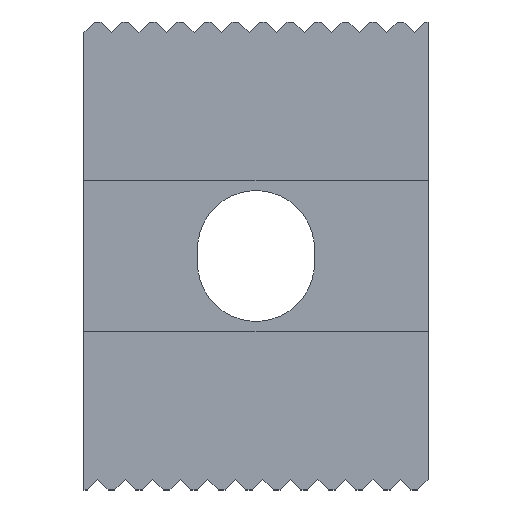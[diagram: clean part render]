
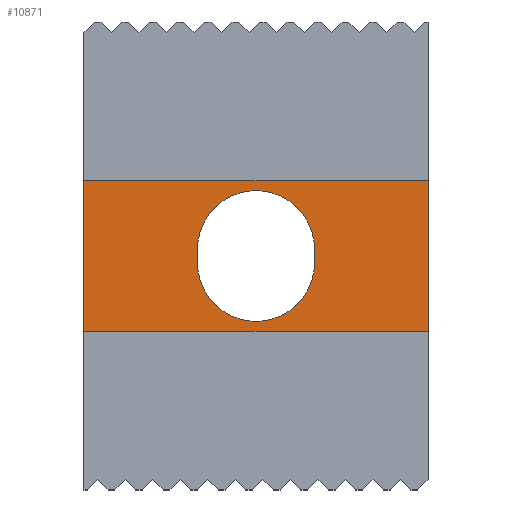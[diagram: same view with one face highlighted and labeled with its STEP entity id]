
A CAD part, front view. The second image highlights one B-rep face of the part: STEP entity #10871.
In plain terms, the highlighted planar face has unit normal (0, -1, 0).
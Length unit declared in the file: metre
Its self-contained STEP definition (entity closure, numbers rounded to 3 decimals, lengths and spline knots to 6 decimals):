
#1=DIRECTION('',(-1.,0.,0.));
#2=VECTOR('',#1,0.025);
#3=CARTESIAN_POINT('',(0.0125,0.004,-0.010068));
#4=LINE('',#3,#2);
#5=CARTESIAN_POINT('',(0.,0.004,-0.0165));
#6=DIRECTION('',(0.,1.,0.));
#7=DIRECTION('',(-0.993,0.,0.118));
#8=AXIS2_PLACEMENT_3D('',#5,#6,#7);
#10=CARTESIAN_POINT('',(0.,0.004,-0.0175));
#11=DIRECTION('',(0.,1.,0.));
#12=DIRECTION('',(0.993,0.,-0.118));
#13=AXIS2_PLACEMENT_3D('',#10,#11,#12);
#15=DIRECTION('',(-1.,0.,0.));
#16=VECTOR('',#15,0.025);
#17=CARTESIAN_POINT('',(0.0125,0.004,-0.023932));
#18=LINE('',#17,#16);
#31=DIRECTION('',(0.,0.,1.));
#32=VECTOR('',#31,0.002);
#33=CARTESIAN_POINT('',(0.00422,0.004,
-0.018));
#34=LINE('',#33,#32);
#47=DIRECTION('',(0.,0.,-1.));
#48=VECTOR('',#47,0.002);
#49=CARTESIAN_POINT('',(-0.00422,0.004,
-0.016));
#50=LINE('',#49,#48);
#243=DIRECTION('',(0.,0.,1.));
#244=VECTOR('',#243,0.013864);
#245=CARTESIAN_POINT('',(-0.0125,0.004,-0.023932));
#246=LINE('',#245,#244);
#331=DIRECTION('',(0.,0.,-1.));
#332=VECTOR('',#331,0.013864);
#333=CARTESIAN_POINT('',(0.0125,0.004,-0.010068));
#334=LINE('',#333,#332);
#9681=CARTESIAN_POINT('',(-0.00422,0.004,
-0.016));
#9682=CARTESIAN_POINT('',(-0.00422,0.004,
-0.018));
#9683=VERTEX_POINT('',#9681);
#9684=VERTEX_POINT('',#9682);
#9685=CARTESIAN_POINT('',(0.00422,0.004,
-0.018));
#9686=VERTEX_POINT('',#9685);
#9687=CARTESIAN_POINT('',(0.00422,0.004,
-0.016));
#9688=VERTEX_POINT('',#9687);
#10823=CARTESIAN_POINT('',(0.0125,0.004,-0.010068));
#10824=CARTESIAN_POINT('',(-0.0125,0.004,-0.010068));
#10825=VERTEX_POINT('',#10823);
#10826=VERTEX_POINT('',#10824);
#10827=CARTESIAN_POINT('',(0.0125,0.004,-0.023932));
#10828=CARTESIAN_POINT('',(-0.0125,0.004,-0.023932));
#10829=VERTEX_POINT('',#10827);
#10830=VERTEX_POINT('',#10828);
#10847=CARTESIAN_POINT('',(0.,0.004,-0.017));
#10848=DIRECTION('',(0.,1.,0.));
#10849=DIRECTION('',(0.,0.,1.));
#10850=AXIS2_PLACEMENT_3D('',#10847,#10848,#10849);
#10851=PLANE('',#10850);
#10853=ORIENTED_EDGE('',*,*,#10852,.T.);
#10854=ORIENTED_EDGE('',*,*,#10836,.F.);
#10856=ORIENTED_EDGE('',*,*,#10855,.T.);
#10858=ORIENTED_EDGE('',*,*,#10857,.T.);
#10859=EDGE_LOOP('',(#10853,#10854,#10856,#10858));
#10860=FACE_OUTER_BOUND('',#10859,.F.);
#10862=ORIENTED_EDGE('',*,*,#10861,.F.);
#10864=ORIENTED_EDGE('',*,*,#10863,.T.);
#10866=ORIENTED_EDGE('',*,*,#10865,.F.);
#10868=ORIENTED_EDGE('',*,*,#10867,.T.);
#10869=EDGE_LOOP('',(#10862,#10864,#10866,#10868));
#10870=FACE_BOUND('',#10869,.F.);
#10871=ADVANCED_FACE('',(#10860,#10870),#10851,.F.);
#9=CIRCLE('',#8,0.00425);
#14=CIRCLE('',#13,0.00425);
#10836=EDGE_CURVE('',#10825,#10826,#4,.T.);
#10852=EDGE_CURVE('',#10830,#10826,#246,.T.);
#10855=EDGE_CURVE('',#10825,#10829,#334,.T.);
#10857=EDGE_CURVE('',#10829,#10830,#18,.T.);
#10861=EDGE_CURVE('',#9683,#9688,#9,.T.);
#10863=EDGE_CURVE('',#9683,#9684,#50,.T.);
#10865=EDGE_CURVE('',#9686,#9684,#14,.T.);
#10867=EDGE_CURVE('',#9686,#9688,#34,.T.);
